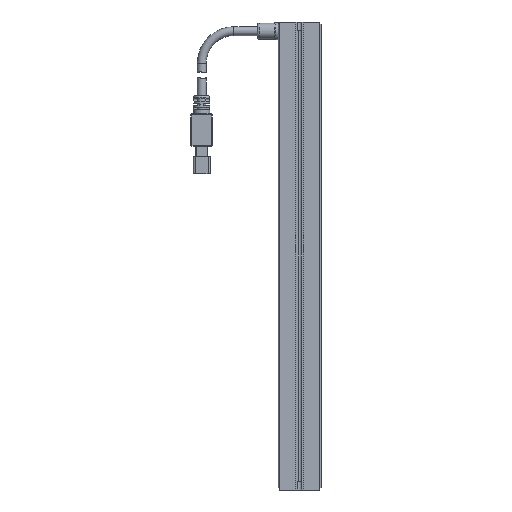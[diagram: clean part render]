
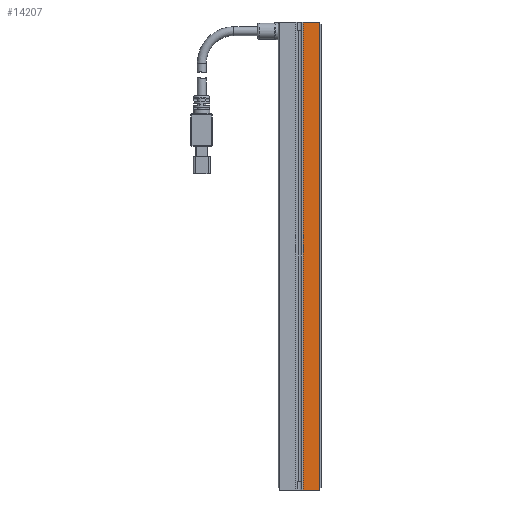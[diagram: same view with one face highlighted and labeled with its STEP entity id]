
A CAD part, front view. The second image highlights one B-rep face of the part: STEP entity #14207.
In plain terms, the highlighted planar face has unit normal (0, -1, 0).
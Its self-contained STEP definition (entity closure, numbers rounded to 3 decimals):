
#169 = VERTEX_POINT ( 'NONE', #1969 ) ;
#413 = CARTESIAN_POINT ( 'NONE',  ( 1.75, 0., 109. ) ) ;
#952 = DIRECTION ( 'NONE',  ( 0., 0., -1. ) ) ;
#1190 = CARTESIAN_POINT ( 'NONE',  ( 0., 0., 109. ) ) ;
#1773 = ORIENTED_EDGE ( 'NONE', *, *, #13365, .F. ) ;
#1807 = CARTESIAN_POINT ( 'NONE',  ( 1.75, 0., 109. ) ) ;
#1969 = CARTESIAN_POINT ( 'NONE',  ( 9.5, 0., 108.5 ) ) ;
#2200 = DIRECTION ( 'NONE',  ( 1., 0., 0. ) ) ;
#2516 = CARTESIAN_POINT ( 'NONE',  ( 9.5, 0., -108.5 ) ) ;
#2588 = DIRECTION ( 'NONE',  ( 0., 1., 0. ) ) ;
#2729 = LINE ( 'NONE', #6368, #16783 ) ;
#2824 = EDGE_LOOP ( 'NONE', ( #1773, #12512, #6349, #11031, #16609, #12067 ) ) ;
#3745 = VECTOR ( 'NONE', #4963, 1000. ) ;
#3763 = EDGE_CURVE ( 'NONE', #10805, #10974, #11216, .T. ) ;
#3782 = VECTOR ( 'NONE', #11193, 1000. ) ;
#3933 = DIRECTION ( 'NONE',  ( -1., 0., 0. ) ) ;
#3960 = LINE ( 'NONE', #9126, #7826 ) ;
#4172 = PLANE ( 'NONE',  #8751 ) ;
#4442 = CARTESIAN_POINT ( 'NONE',  ( 9., 0., -109. ) ) ;
#4458 = LINE ( 'NONE', #11822, #16820 ) ;
#4963 = DIRECTION ( 'NONE',  ( 1., 0., 0. ) ) ;
#6349 = ORIENTED_EDGE ( 'NONE', *, *, #7230, .F. ) ;
#6368 = CARTESIAN_POINT ( 'NONE',  ( 10., 0., -108. ) ) ;
#7230 = EDGE_CURVE ( 'NONE', #13602, #14572, #4458, .T. ) ;
#7445 = LINE ( 'NONE', #1807, #3782 ) ;
#7826 = VECTOR ( 'NONE', #952, 1000. ) ;
#8125 = EDGE_CURVE ( 'NONE', #13602, #10805, #7445, .T. ) ;
#8362 = EDGE_CURVE ( 'NONE', #10974, #8791, #2729, .T. ) ;
#8751 = AXIS2_PLACEMENT_3D ( 'NONE', #1190, #2588, #3933 ) ;
#8771 = LINE ( 'NONE', #13655, #11118 ) ;
#8791 = VERTEX_POINT ( 'NONE', #2516 ) ;
#9020 = DIRECTION ( 'NONE',  ( 0.707, 0., 0.707 ) ) ;
#9126 = CARTESIAN_POINT ( 'NONE',  ( 9.5, 0., 109. ) ) ;
#10653 = EDGE_CURVE ( 'NONE', #169, #14572, #8771, .T. ) ;
#10805 = VERTEX_POINT ( 'NONE', #15201 ) ;
#10974 = VERTEX_POINT ( 'NONE', #4442 ) ;
#11031 = ORIENTED_EDGE ( 'NONE', *, *, #8125, .T. ) ;
#11118 = VECTOR ( 'NONE', #14832, 1000. ) ;
#11193 = DIRECTION ( 'NONE',  ( 0., 0., -1. ) ) ;
#11216 = LINE ( 'NONE', #17244, #3745 ) ;
#11822 = CARTESIAN_POINT ( 'NONE',  ( 0., 0., 109. ) ) ;
#12067 = ORIENTED_EDGE ( 'NONE', *, *, #8362, .T. ) ;
#12452 = FACE_OUTER_BOUND ( 'NONE', #2824, .T. ) ;
#12512 = ORIENTED_EDGE ( 'NONE', *, *, #10653, .T. ) ;
#13365 = EDGE_CURVE ( 'NONE', #169, #8791, #3960, .T. ) ;
#13602 = VERTEX_POINT ( 'NONE', #413 ) ;
#13655 = CARTESIAN_POINT ( 'NONE',  ( 9., 0., 109. ) ) ;
#14207 = ADVANCED_FACE ( 'NONE', ( #12452 ), #4172, .F. ) ;
#14572 = VERTEX_POINT ( 'NONE', #14781 ) ;
#14781 = CARTESIAN_POINT ( 'NONE',  ( 9., 0., 109. ) ) ;
#14832 = DIRECTION ( 'NONE',  ( -0.707, 0., 0.707 ) ) ;
#15201 = CARTESIAN_POINT ( 'NONE',  ( 1.75, 0., -109. ) ) ;
#16609 = ORIENTED_EDGE ( 'NONE', *, *, #3763, .T. ) ;
#16783 = VECTOR ( 'NONE', #9020, 1000. ) ;
#16820 = VECTOR ( 'NONE', #2200, 1000. ) ;
#17244 = CARTESIAN_POINT ( 'NONE',  ( 0., 0., -109. ) ) ;
